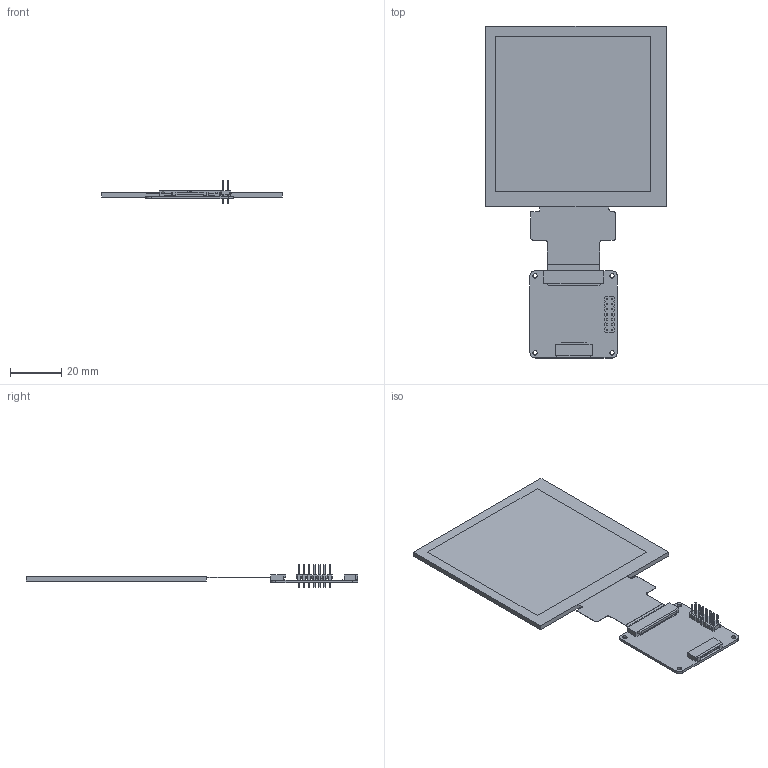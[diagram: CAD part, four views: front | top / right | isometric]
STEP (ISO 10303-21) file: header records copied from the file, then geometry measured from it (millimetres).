
FILE_DESCRIPTION((''),'2;1');
FILE_NAME('TS034WVS02NP-B1477A-V00-241209','2024-12-09T10:24:47',('Shaozi'),(''),'CREO PARAMETRIC BY PTC INC, 2024063','CREO PARAMETRIC BY PTC INC, 2024063','');
FILE_SCHEMA(('AUTOMOTIVE_DESIGN { 1 0 10303 214 1 1 1 1 }'));
Length unit declared in the file: millimetre
Products named in the file (1): TS034WVS02NP-B1477A-V00-241209
Bounding box: 70.45 x 129.37 x 8.8 mm (x, y, z)
Surface area: 15262.7 mm2 (no closed solid volume)
Topology: 0 solids, 6 shells, 341 faces, 978 edges, 656 vertices
Faces by surface type: plane 320, cylinder 21
Entity records: 13016 total; most frequent: CARTESIAN_POINT 1975, ORIENTED_EDGE 1846, DIRECTION 1702, EDGE_CURVE 978, VECTOR 936, LINE 936, VERTEX_POINT 656, AXIS2_PLACEMENT_3D 383
